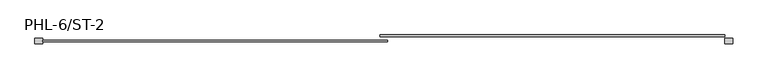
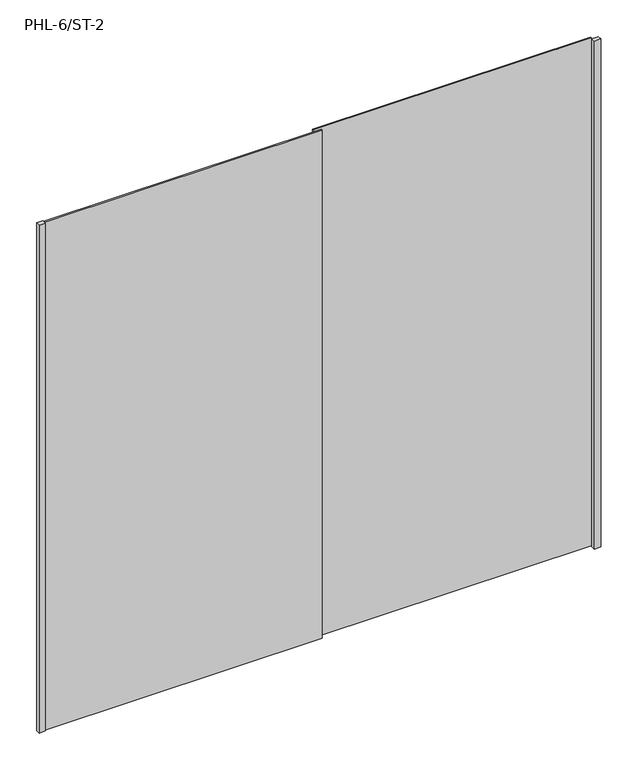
"""IFC4 building model written with IfcOpenShell, lengths in millimetres: furniture geometry, Puerta Closet corre 2 hojas : PHL-6/ST-2."""

from ifc_helpers import new_model, si_unit, origin, origin_with_axes, place, context, project, spatial, polyline, outline, extrude, source, transform, mapped, element, save


def phl_6_st_2_9932728b(model_context):
    return source(origin(), model_context, "Body", "SweptSolid", [
        extrude(outline(polyline([(779.05, 80.0), (749.05, 80.0), (749.05, 100.0), (779.05, 100.0), (779.05, 80.0)])), origin_with_axes(), (0.0, 0.0, 1.0), 2520.0),
        extrude(outline(polyline([(749.05, 106.6666667), (-555.0, 106.6666667), (-555.0, 113.3333333), (749.05, 113.3333333), (749.05, 106.6666667)])), origin_with_axes(), (0.0, 0.0, 1.0), 2520.0),
        extrude(outline(polyline([(-525.0, 86.6666667), (-1829.05, 86.6666667), (-1829.05, 93.3333333), (-525.0, 93.3333333), (-525.0, 86.6666667)])), origin_with_axes(), (0.0, 0.0, 1.0), 2520.0),
        extrude(outline(polyline([(-1859.05, 80.0), (-1859.05, 100.0), (-1829.05, 100.0), (-1829.05, 80.0), (-1859.05, 80.0)])), origin_with_axes(), (0.0, 0.0, 1.0), 2520.0),
    ])


if __name__ == "__main__":
    model = new_model("IFC4")
    model_context = context("Model", 3, world=origin())
    ifc_project = project(units=[si_unit("LENGTHUNIT", "METRE", prefix="MILLI")], contexts=[model_context])
    site = spatial("IfcSite", under=ifc_project)
    building = spatial("IfcBuilding", under=site)
    placement = place(None, origin())
    phl_6_st_2_shape = phl_6_st_2_9932728b(model_context)
    element("IfcFurniture", 1, ObjectType="Puerta Closet corre 2 hojas : PHL-6/ST-2", at=placement, inside=building, context=model_context, shape_type="MappedRepresentation", body=[
        mapped(phl_6_st_2_shape, transform((0.0, 0.0, 0.0), x_axis=(1.0, 0.0, 0.0), y_axis=(0.0, 1.0, 0.0), z_axis=(0.0, 0.0, 1.0))),
    ])
    save(model, "model.ifc")
